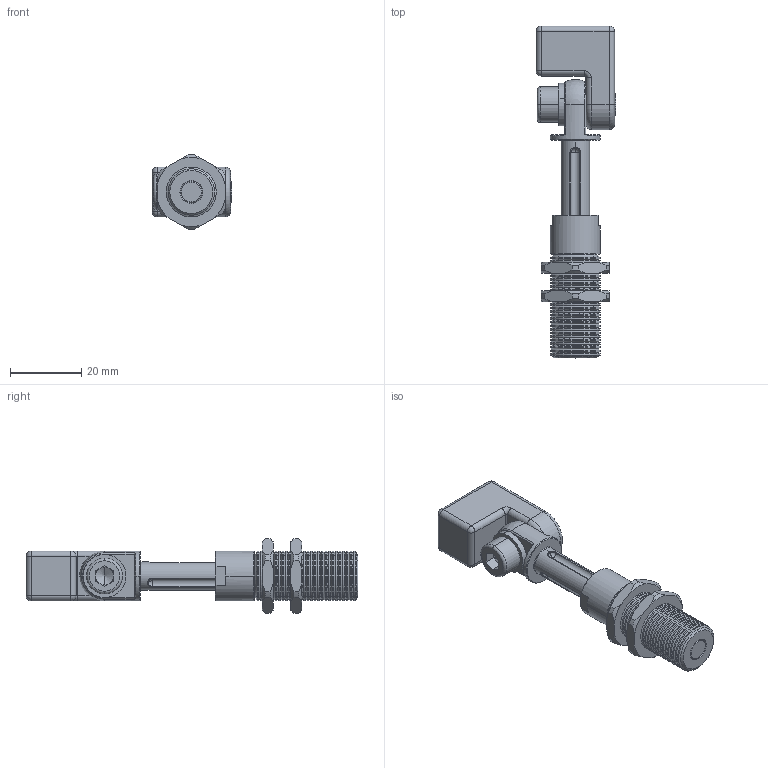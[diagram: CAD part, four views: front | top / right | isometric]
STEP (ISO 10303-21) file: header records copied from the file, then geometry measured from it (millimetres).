
FILE_DESCRIPTION (( 'STEP AP214' ), '1' );
FILE_NAME ('VFET1621-G18.STEP', '2023-03-06T05:20:05', ( 'Windows User' ), ( 'P R C' ), 'SwSTEP 2.0', 'SolidWorks 2019', '' );
FILE_SCHEMA (( 'AUTOMOTIVE_DESIGN' ));
Length unit declared in the file: millimetre
Products named in the file (1): VFET1621-G18
Bounding box: 22.4 x 93 x 20.99 mm (x, y, z)
Volume: 13482.6 mm3; surface area: 11909.1 mm2
Topology: 8 solids, 8 shells, 477 faces, 1064 edges, 598 vertices
Faces by surface type: cone 216, cylinder 153, plane 70, sphere 20, bspline 10, torus 8
Entity records: 21064 total; most frequent: CARTESIAN_POINT 5183, DIRECTION 2346, ORIENTED_EDGE 2100, EDGE_CURVE 1050, AXIS2_PLACEMENT_3D 945, VERTEX_POINT 596, EDGE_LOOP 506, UNCERTAINTY_MEASURE_WITH_UNIT 487
